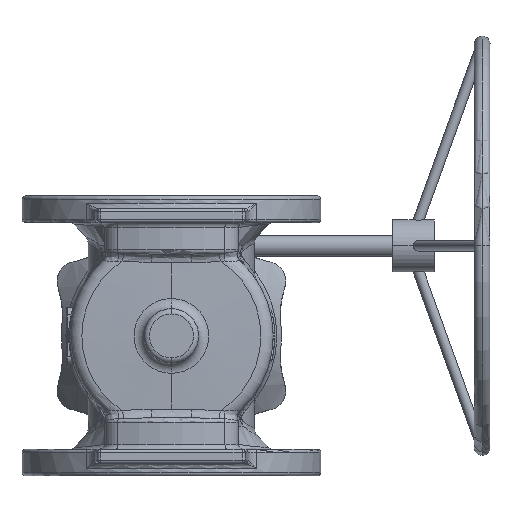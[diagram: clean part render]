
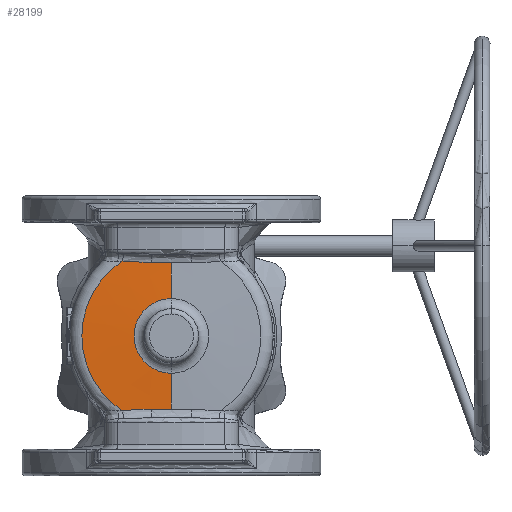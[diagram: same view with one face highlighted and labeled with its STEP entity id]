
A CAD part, front view. The second image highlights one B-rep face of the part: STEP entity #28199.
In plain terms, the highlighted conical face has half-angle 88 degrees and reference radius 97 mm.
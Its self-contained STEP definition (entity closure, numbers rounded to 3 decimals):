
#128 = LINE ( 'NONE', #24283, #29782 ) ;
#154 = EDGE_LOOP ( 'NONE', ( #28288, #42929, #32000, #8082, #32222, #3880, #17727, #33732 ) ) ;
#241 = EDGE_CURVE ( 'Defeatured_0_394+Defeatured_0_475+Defeatured_0_476+Defeatured_0_392', #23498, #20875, #10626, .T. ) ;
#680 = DIRECTION ( 'NONE',  ( 0., 1., 0. ) ) ;
#1521 = DIRECTION ( 'NONE',  ( 0., 0., 1. ) ) ;
#2540 = CARTESIAN_POINT ( 'NONE',  ( -46.754, -128.704, 71.488 ) ) ;
#2834 = CARTESIAN_POINT ( 'NONE',  ( -35.303, -128.944, 70.202 ) ) ;
#3281 = CARTESIAN_POINT ( 'NONE',  ( -28.404, -129.053, 69.924 ) ) ;
#3619 = B_SPLINE_CURVE_WITH_KNOTS ( 'NONE', 3,
 ( #4114, #11529, #27603, #7819 ),
 .UNSPECIFIED., .F., .F.,
 ( 4, 4 ),
 ( 0.049, 0.068 ),
 .UNSPECIFIED. ) ;
#3880 = ORIENTED_EDGE ( 'NONE', *, *, #21395, .T. ) ;
#4114 = CARTESIAN_POINT ( 'NONE',  ( 0., -129.249, 69.821 ) ) ;
#4932 = CARTESIAN_POINT ( 'NONE',  ( -35.303, -128.944, -70.202 ) ) ;
#5371 = CARTESIAN_POINT ( 'NONE',  ( -23.799, -129.112, -69.847 ) ) ;
#7706 = CIRCLE ( 'NONE', #39973, 85.419 ) ;
#7819 = CARTESIAN_POINT ( 'NONE',  ( -19.192, -129.158, 69.831 ) ) ;
#8082 = ORIENTED_EDGE ( 'NONE', *, *, #19871, .T. ) ;
#8184 = CARTESIAN_POINT ( 'NONE',  ( -12.795, -129.218, -69.824 ) ) ;
#8636 = CARTESIAN_POINT ( 'NONE',  ( -28.404, -129.053, -69.924 ) ) ;
#10626 = B_SPLINE_CURVE_WITH_KNOTS ( 'NONE', 3,
 ( #36204, #19531, #32899, #3281, #29847, #2834, #43027, #12927, #43249, #36632 ),
 .UNSPECIFIED., .F., .F.,
 ( 4, 2, 2, 2, 4 ),
 ( 0., 0.007, 0.014, 0.021, 0.028 ),
 .UNSPECIFIED. ) ;
#10759 = DIRECTION ( 'NONE',  ( 0., 0., 1. ) ) ;
#10883 = LINE ( 'NONE', #41400, #19611 ) ;
#11470 = CARTESIAN_POINT ( 'NONE',  ( -19.192, -129.158, -69.831 ) ) ;
#11529 = CARTESIAN_POINT ( 'NONE',  ( -6.397, -129.249, 69.821 ) ) ;
#12927 = CARTESIAN_POINT ( 'NONE',  ( -42.187, -128.81, 70.795 ) ) ;
#13587 = VERTEX_POINT ( 'NONE', #23616 ) ;
#14939 = CIRCLE ( 'NONE', #25443, 35.651 ) ;
#15026 = CONICAL_SURFACE ( 'NONE', #43112, 97., 1.536 ) ;
#16052 = B_SPLINE_CURVE_WITH_KNOTS ( 'NONE', 3,
 ( #11470, #8184, #38484, #35173 ),
 .UNSPECIFIED., .F., .F.,
 ( 4, 4 ),
 ( 0.03, 0.049 ),
 .UNSPECIFIED. ) ;
#17384 = FACE_OUTER_BOUND ( 'NONE', #154, .T. ) ;
#17727 = ORIENTED_EDGE ( 'NONE', *, *, #38653, .T. ) ;
#18610 = EDGE_CURVE ( 'NONE', #26630, #18989, #10883, .T. ) ;
#18761 = CARTESIAN_POINT ( 'NONE',  ( -30.705, -129.019, -69.988 ) ) ;
#18989 = VERTEX_POINT ( 'NONE', #28771 ) ;
#19460 = CARTESIAN_POINT ( 'NONE',  ( 0., -129.249, 69.821 ) ) ;
#19531 = CARTESIAN_POINT ( 'NONE',  ( -21.496, -129.137, 69.833 ) ) ;
#19611 = VECTOR ( 'NONE', #24508, 1000. ) ;
#19871 = EDGE_CURVE ( 'Defeatured_0_394+Defeatured_0_476+Defeatured_0_477+Defeatured_0_475', #22513, #23498, #3619, .T. ) ;
#20218 = CARTESIAN_POINT ( 'NONE',  ( 0., -128.704, 0. ) ) ;
#20875 = VERTEX_POINT ( 'NONE', #2540 ) ;
#20922 = CARTESIAN_POINT ( 'NONE',  ( -19.192, -129.158, 69.831 ) ) ;
#21395 = EDGE_CURVE ( 'Defeatured_0_394+Defeatured_0_392+Defeatured_0_475+Defeatured_0_492', #20875, #25971, #7706, .T. ) ;
#22057 = CARTESIAN_POINT ( 'NONE',  ( -37.6, -128.902, -70.353 ) ) ;
#22513 = VERTEX_POINT ( 'NONE', #19460 ) ;
#23095 = DIRECTION ( 'NONE',  ( 0., 0., -1. ) ) ;
#23498 = VERTEX_POINT ( 'NONE', #20922 ) ;
#23546 = DIRECTION ( 'NONE',  ( 0., 1., 0. ) ) ;
#23616 = CARTESIAN_POINT ( 'NONE',  ( 0., -130.442, 35.651 ) ) ;
#23999 = B_SPLINE_CURVE_WITH_KNOTS ( 'NONE', 3,
 ( #38724, #31909, #35200, #22057, #4932, #18761, #8636, #5371, #35431, #41818 ),
 .UNSPECIFIED., .F., .F.,
 ( 4, 2, 2, 2, 4 ),
 ( 0., 0.007, 0.014, 0.021, 0.028 ),
 .UNSPECIFIED. ) ;
#24009 = EDGE_CURVE ( 'Defeatured_0_394+Defeatured_0_384+Defeatured_0_384+Defeatured_0_384', #26630, #13587, #14939, .T. ) ;
#24283 = CARTESIAN_POINT ( 'NONE',  ( 0., -128.3, 97. ) ) ;
#24508 = DIRECTION ( 'NONE',  ( 0., 0.035, -0.999 ) ) ;
#25443 = AXIS2_PLACEMENT_3D ( 'NONE', #36910, #23546, #10759 ) ;
#25971 = VERTEX_POINT ( 'NONE', #34713 ) ;
#26630 = VERTEX_POINT ( 'NONE', #29773 ) ;
#27603 = CARTESIAN_POINT ( 'NONE',  ( -12.795, -129.218, 69.824 ) ) ;
#27744 = EDGE_CURVE ( 'NONE', #13587, #22513, #128, .T. ) ;
#28199 = ADVANCED_FACE ( 'Defeatured_0_394', ( #17384 ), #15026, .T. ) ;
#28288 = ORIENTED_EDGE ( 'NONE', *, *, #18610, .F. ) ;
#28692 = VERTEX_POINT ( 'NONE', #36375 ) ;
#28771 = CARTESIAN_POINT ( 'NONE',  ( 0., -129.249, -69.821 ) ) ;
#29773 = CARTESIAN_POINT ( 'NONE',  ( 0., -130.442, -35.651 ) ) ;
#29782 = VECTOR ( 'NONE', #37651, 1000. ) ;
#29847 = CARTESIAN_POINT ( 'NONE',  ( -30.705, -129.019, 69.988 ) ) ;
#30748 = CARTESIAN_POINT ( 'NONE',  ( 0., -128.3, 0. ) ) ;
#31909 = CARTESIAN_POINT ( 'NONE',  ( -44.48, -128.76, -71.086 ) ) ;
#32000 = ORIENTED_EDGE ( 'NONE', *, *, #27744, .T. ) ;
#32222 = ORIENTED_EDGE ( 'NONE', *, *, #241, .T. ) ;
#32899 = CARTESIAN_POINT ( 'NONE',  ( -23.799, -129.112, 69.847 ) ) ;
#32950 = DIRECTION ( 'NONE',  ( 0., -1., 0. ) ) ;
#33732 = ORIENTED_EDGE ( 'NONE', *, *, #33776, .T. ) ;
#33776 = EDGE_CURVE ( 'Defeatured_0_394+Defeatured_0_493+Defeatured_0_492+Defeatured_0_494', #28692, #18989, #16052, .T. ) ;
#34713 = CARTESIAN_POINT ( 'NONE',  ( -46.754, -128.704, -71.488 ) ) ;
#35173 = CARTESIAN_POINT ( 'NONE',  ( 0., -129.249, -69.821 ) ) ;
#35200 = CARTESIAN_POINT ( 'NONE',  ( -42.187, -128.81, -70.795 ) ) ;
#35431 = CARTESIAN_POINT ( 'NONE',  ( -21.496, -129.137, -69.833 ) ) ;
#36204 = CARTESIAN_POINT ( 'NONE',  ( -19.192, -129.158, 69.831 ) ) ;
#36375 = CARTESIAN_POINT ( 'NONE',  ( -19.192, -129.158, -69.831 ) ) ;
#36632 = CARTESIAN_POINT ( 'NONE',  ( -46.754, -128.704, 71.488 ) ) ;
#36910 = CARTESIAN_POINT ( 'NONE',  ( 0., -130.442, 0. ) ) ;
#37651 = DIRECTION ( 'NONE',  ( 0., 0.035, 0.999 ) ) ;
#38484 = CARTESIAN_POINT ( 'NONE',  ( -6.397, -129.249, -69.821 ) ) ;
#38653 = EDGE_CURVE ( 'Defeatured_0_394+Defeatured_0_492+Defeatured_0_392+Defeatured_0_493', #25971, #28692, #23999, .T. ) ;
#38724 = CARTESIAN_POINT ( 'NONE',  ( -46.754, -128.704, -71.488 ) ) ;
#39973 = AXIS2_PLACEMENT_3D ( 'NONE', #20218, #32950, #23095 ) ;
#41400 = CARTESIAN_POINT ( 'NONE',  ( 0., -128.3, -97. ) ) ;
#41818 = CARTESIAN_POINT ( 'NONE',  ( -19.192, -129.158, -69.831 ) ) ;
#42929 = ORIENTED_EDGE ( 'NONE', *, *, #24009, .T. ) ;
#43027 = CARTESIAN_POINT ( 'NONE',  ( -37.6, -128.902, 70.353 ) ) ;
#43112 = AXIS2_PLACEMENT_3D ( 'NONE', #30748, #680, #1521 ) ;
#43249 = CARTESIAN_POINT ( 'NONE',  ( -44.48, -128.76, 71.086 ) ) ;
